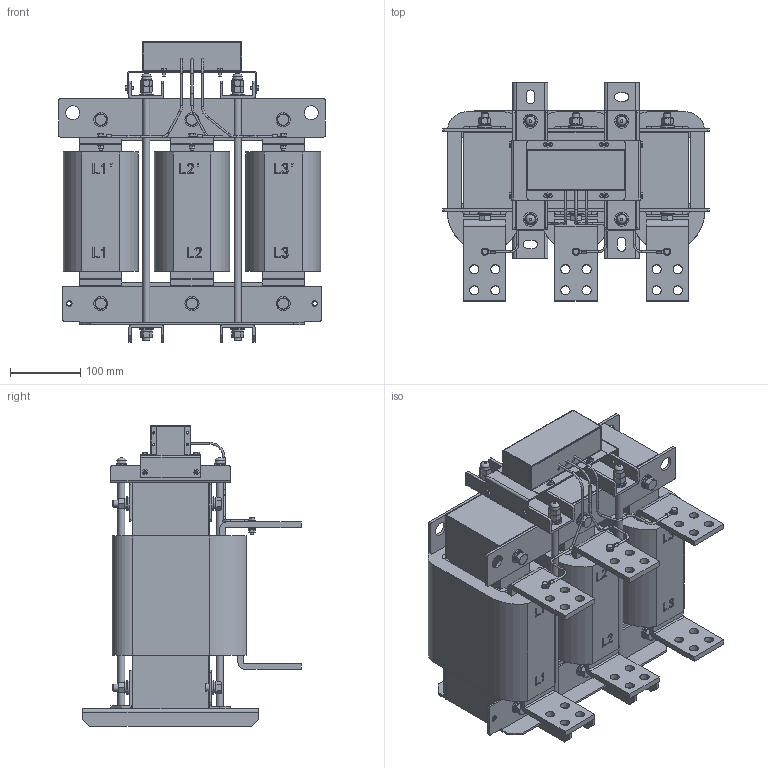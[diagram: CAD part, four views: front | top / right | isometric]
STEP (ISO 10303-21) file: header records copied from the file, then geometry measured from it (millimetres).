
FILE_DESCRIPTION(('STEP AP203'), '1');
FILE_NAME('IDUDT-355_720-4 _ dU_dt ôèëüòð 355 êÂò', '', ('UNSPECIFIED'), ('UNSPECIFIED'), 'C3D Converter', 'C3D Toolkit', '');
FILE_SCHEMA(('CONFIG_CONTROL_DESIGN'));
Length unit declared in the file: millimetre
Products named in the file (5): IDUDT-500/1000-4
Assembly tree (7 placements, depth 2):
  IDUDT-500/1000-4
    (unnamed)
    (unnamed)
    (unnamed)  x4
    (unnamed)
Bounding box: 380 x 311 x 427.97 mm (x, y, z)
Volume: 15379285.9 mm3; surface area: 2047039.1 mm2
Topology: 147 solids, 147 shells, 1816 faces, 4160 edges, 2681 vertices
Faces by surface type: plane 1177, cylinder 383, cone 172, bspline 57, torus 23, sphere 4
Full cylindrical faces by diameter (mm): 3 x19, 3.2 x8, 4 x11, 4.211 x3, 5 x6, 5.375 x3, 5.417 x6, 5.558 x3, 7.958 x3, 8.422 x18, 10 x16, 10.75 x20, 10.833 x26, 11 x2, 12 x2, 13 x24, 14 x3, 15.917 x20, 20 x30
Entity records: 91651 total; most frequent: CARTESIAN_POINT 37992, ORIENTED_EDGE 7486, DIRECTION 7410, EDGE_CURVE 3743, AXIS2_PLACEMENT_3D 2678, VERTEX_POINT 2612, EDGE_LOOP 2333, LINE 2054
